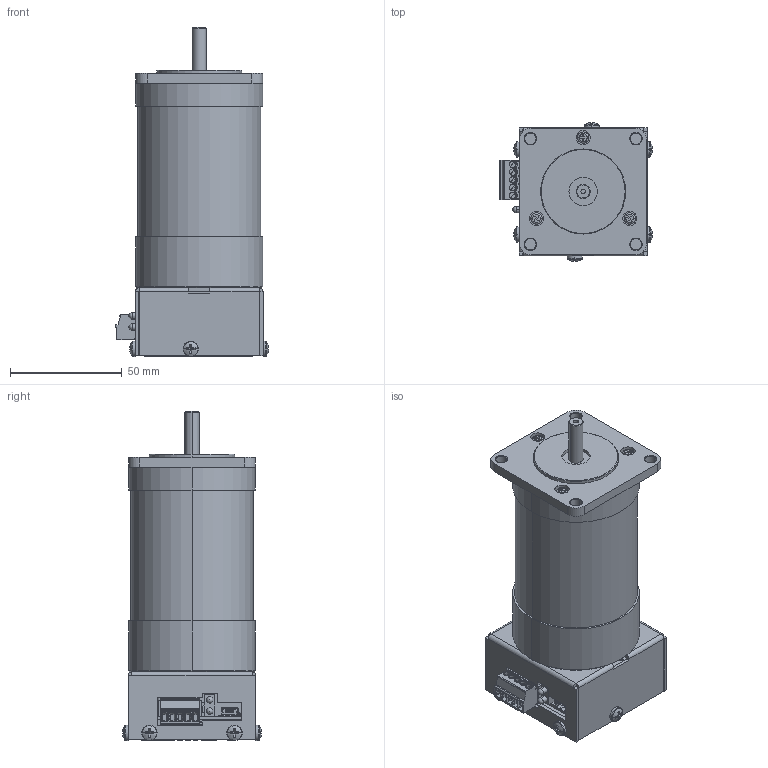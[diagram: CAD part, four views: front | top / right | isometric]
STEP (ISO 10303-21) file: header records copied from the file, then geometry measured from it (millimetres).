
FILE_DESCRIPTION (( 'STEP AP214' ), '1' );
FILE_NAME ('BLWS23MDCUSB4S-24V-4000.STEP', '2016-02-03T00:47:18', ( '' ), ( '' ), 'SwSTEP 2.0', 'SolidWorks 2016', '' );
FILE_SCHEMA (( 'AUTOMOTIVE_DESIGN' ));
Length unit declared in the file: inch
Products named in the file (21): Heat Sink, BLWS23MDCUSB Series; BLWR23MDAUSB Cover; 1840395; BLWS23-BLWR23 Series_BLWS23MDA4; 55pan cross head_ai_CR-PHMS 0.112-40x0.25x0.25-S; 55pan cross head_ai_CR-PHMS 0.112-40x0.3125x0.3125-S; BLWS23MDCUSB4S-24V-4000; TPE-661001001674-1.0X1.125; SUB-AA6550-1; CON-UX60SC-MB-5ST80; UX60SC-MB-5ST; LED-0008; 1844249; TRS-IRFU3607PBF with 90degree bent UP legs; LED-T-1-Series_LED-T-1-GRN; LED-LTM Series_LED-LTM150; RES-3W-JAPSTYLE.25; CON-B5B-EH-A; CAP-0223; AA6550PCB; 55pan cross head_ai_CR-PHMS 0.138-32x0.25x0.25-S
Assembly tree (32 placements, depth 4):
  BLWS23MDCUSB4S-24V-4000
    BLWS23-BLWR23 Series_BLWS23MDA4
    BLWR23MDAUSB Cover
    Heat Sink, BLWS23MDCUSB Series
    55pan cross head_ai_CR-PHMS 0.138-32x0.25x0.25-S  x6
    SUB-AA6550-1
      AA6550PCB
      CAP-0223
      CON-B5B-EH-A
      RES-3W-JAPSTYLE.25
      LED-LTM Series_LED-LTM150
      LED-T-1-Series_LED-T-1-GRN
      TRS-IRFU3607PBF with 90degree bent UP legs  x6
      1844249
      LED-0008
      CON-UX60SC-MB-5ST80
        UX60SC-MB-5ST
    TPE-661001001674-1.0X1.125
    55pan cross head_ai_CR-PHMS 0.112-40x0.3125x0.3125-S  x2
    55pan cross head_ai_CR-PHMS 0.112-40x0.25x0.25-S  x2
    1840395
Bounding box: 68.57 x 62.13 x 147.29 mm (x, y, z)
Volume: 280306.4 mm3; surface area: 68041.4 mm2
Topology: 30 solids, 30 shells, 3812 faces, 9987 edges, 6432 vertices
Faces by surface type: plane 2057, cylinder 850, cone 481, bspline 361, torus 40, sphere 23
Entity records: 145533 total; most frequent: CARTESIAN_POINT 36756, ORIENTED_EDGE 16058, DIRECTION 13860, EDGE_CURVE 8029, VECTOR 5388, LINE 5388, VERTEX_POINT 5208, AXIS2_PLACEMENT_3D 4236
